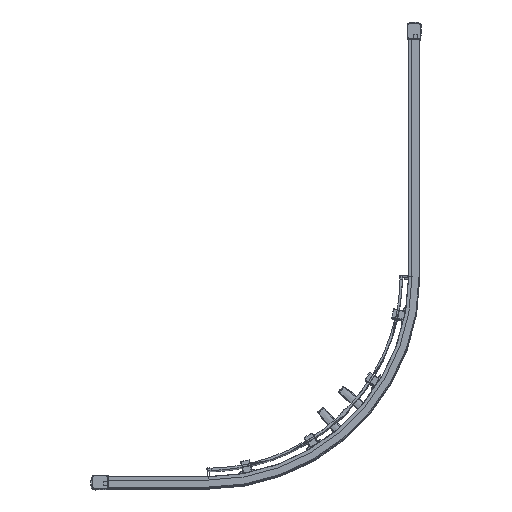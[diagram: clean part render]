
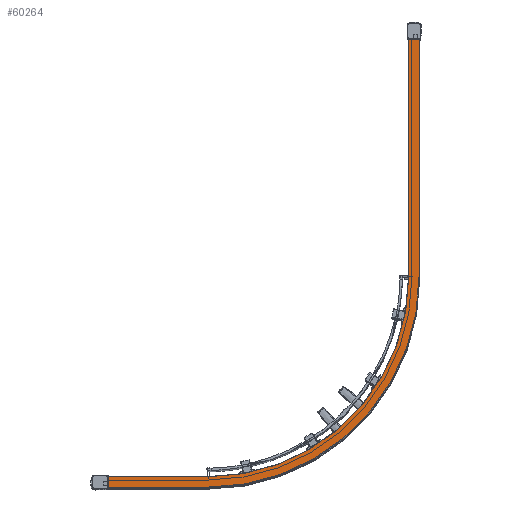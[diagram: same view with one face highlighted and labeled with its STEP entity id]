
A CAD part, top view. The second image highlights one B-rep face of the part: STEP entity #60264.
In plain terms, the highlighted planar face has unit normal (0, 0, 1).
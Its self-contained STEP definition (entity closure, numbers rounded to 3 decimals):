
#4746=LINE($,#118483,#10020);
#4758=LINE($,#118564,#10032);
#4761=LINE($,#118570,#10035);
#4762=LINE($,#118574,#10036);
#4763=LINE($,#118576,#10037);
#4764=LINE($,#118578,#10038);
#10020=VECTOR($,#77351,26.4);
#10032=VECTOR($,#77429,607.5);
#10035=VECTOR($,#77434,607.5);
#10036=VECTOR($,#77437,260.);
#10037=VECTOR($,#77438,26.4);
#10038=VECTOR($,#77439,260.);
#12991=PLANE($,#65037);
#15867=FACE_OUTER_BOUND($,#19210,.T.);
#19210=EDGE_LOOP($,(#48552,#48553,#48554,#48555,#48556,#48557,#48558,#48559));
#22059=CIRCLE($,#65038,511.6);
#22060=CIRCLE($,#65039,538.);
#27341=VERTEX_POINT($,#118478);
#27342=VERTEX_POINT($,#118481);
#27351=VERTEX_POINT($,#118563);
#27353=VERTEX_POINT($,#118569);
#27354=VERTEX_POINT($,#118571);
#27355=VERTEX_POINT($,#118573);
#27356=VERTEX_POINT($,#118575);
#27357=VERTEX_POINT($,#118577);
#34737=EDGE_CURVE($,#27341,#27342,#4746,.T.);
#34763=EDGE_CURVE($,#27341,#27351,#4758,.T.);
#34766=EDGE_CURVE($,#27353,#27342,#4761,.T.);
#34767=EDGE_CURVE($,#27353,#27354,#22059,.T.);
#34768=EDGE_CURVE($,#27354,#27355,#4762,.T.);
#34769=EDGE_CURVE($,#27356,#27355,#4763,.T.);
#34770=EDGE_CURVE($,#27357,#27356,#4764,.T.);
#34771=EDGE_CURVE($,#27351,#27357,#22060,.T.);
#48552=ORIENTED_EDGE($,*,*,#34737,.T.);
#48553=ORIENTED_EDGE($,*,*,#34766,.F.);
#48554=ORIENTED_EDGE($,*,*,#34767,.T.);
#48555=ORIENTED_EDGE($,*,*,#34768,.T.);
#48556=ORIENTED_EDGE($,*,*,#34769,.F.);
#48557=ORIENTED_EDGE($,*,*,#34770,.F.);
#48558=ORIENTED_EDGE($,*,*,#34771,.F.);
#48559=ORIENTED_EDGE($,*,*,#34763,.F.);
#60264=ADVANCED_FACE($,(#15867),#12991,.T.);
#65037=AXIS2_PLACEMENT_3D($,#118568,#77432,#77433);
#65038=AXIS2_PLACEMENT_3D($,#118572,#77435,#77436);
#65039=AXIS2_PLACEMENT_3D($,#118579,#77440,#77441);
#77351=DIRECTION($,(-1.,0.,0.));
#77429=DIRECTION($,(0.,-1.,0.));
#77432=DIRECTION('center_axis',(0.,0.,
1.));
#77433=DIRECTION('ref_axis',(-1.,0.,0.));
#77434=DIRECTION($,(0.,1.,0.));
#77435=DIRECTION('center_axis',(0.,0.,
-1.));
#77436=DIRECTION('ref_axis',(1.,0.,0.));
#77437=DIRECTION($,(-1.,0.,0.));
#77438=DIRECTION($,(0.,1.,0.));
#77439=DIRECTION($,(-1.,0.,0.));
#77440=DIRECTION('center_axis',(0.,0.,
-1.));
#77441=DIRECTION('ref_axis',(1.,0.,0.));
#118478=CARTESIAN_POINT('',(724.714,862.319,2010.));
#118481=CARTESIAN_POINT('',(698.314,862.319,2010.));
#118483=CARTESIAN_POINT($,(726.012,862.319,2010.));
#118563=CARTESIAN_POINT('',(724.714,254.819,2010.));
#118564=CARTESIAN_POINT($,(724.714,864.819,2010.));
#118568=CARTESIAN_POINT('Origin',(724.714,864.819,2010.));
#118569=CARTESIAN_POINT('',(698.314,254.819,2010.));
#118570=CARTESIAN_POINT($,(698.314,864.819,2010.));
#118571=CARTESIAN_POINT('',(186.714,-256.781,2010.));
#118572=CARTESIAN_POINT('Origin',(186.714,254.819,2010.));
#118573=CARTESIAN_POINT('',(-73.286,-256.781,2010.));
#118574=CARTESIAN_POINT($,(186.714,-256.781,2010.));
#118575=CARTESIAN_POINT('',(-73.286,-283.181,2010.));
#118576=CARTESIAN_POINT($,(-73.286,-283.181,2010.));
#118577=CARTESIAN_POINT('',(186.714,-283.181,2010.));
#118578=CARTESIAN_POINT($,(186.714,-283.181,2010.));
#118579=CARTESIAN_POINT('Origin',(186.714,254.819,2010.));
